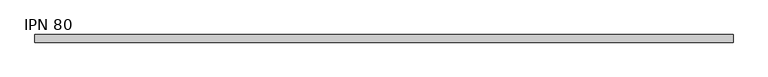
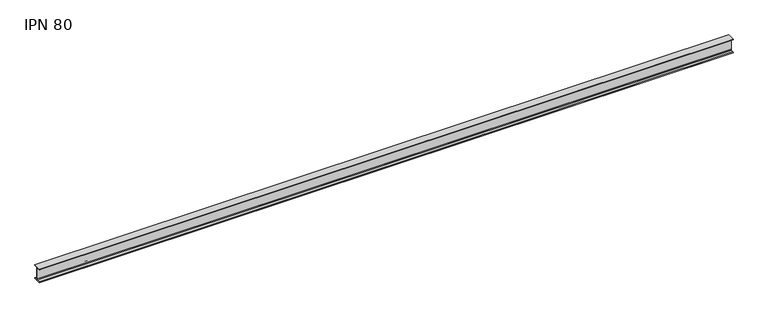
"""IFC4 building model written with IfcOpenShell, lengths in millimetres: beam geometry, IPN - Secciones en I con alas cónicas : IPN 80."""

from ifc_helpers import new_model, si_unit, point, frame, frame_2d, origin, place, context, project, spatial, polyline, circle_curve, trimmed, segment, composite_curve, outline, extrude, source, transform, mapped, element, save


def ipn_80_1b30f456(model_context):
    return source(origin(), model_context, "Body", "SweptSolid", [
        extrude(outline(composite_curve([segment(polyline([(-21.0, 40.0), (21.0, 40.0), (21.0, 37.5704306)]), True, "CONTINUOUS"), segment(trimmed(circle_curve(frame_2d((18.7, 37.5704306)), 2.3), [point((21.0, 37.5704306))], [point((19.01889, 35.2926446))], False, "CARTESIAN"), True, "CONTINUOUS"), segment(polyline([(19.01889, 35.2926446), (5.3092734, 33.3732983)]), True, "CONTINUOUS"), segment(trimmed(circle_curve(frame_2d((5.85, 29.5109655)), 3.9), [point((5.3092734, 33.3732983))], [point((1.95, 29.5109655))], True, "CARTESIAN"), True, "CONTINUOUS"), segment(polyline([(1.95, 29.5109655), (1.95, -29.5109655)]), True, "CONTINUOUS"), segment(trimmed(circle_curve(frame_2d((5.85, -29.5109655)), 3.9), [point((1.95, -29.5109655))], [point((5.3092734, -33.3732983))], True, "CARTESIAN"), True, "CONTINUOUS"), segment(polyline([(5.3092734, -33.3732983), (19.01889, -35.2926446)]), True, "CONTINUOUS"), segment(trimmed(circle_curve(frame_2d((18.7, -37.5704306)), 2.3), [point((19.01889, -35.2926446))], [point((21.0, -37.5704306))], False, "CARTESIAN"), True, "CONTINUOUS"), segment(polyline([(21.0, -37.5704306), (21.0, -40.0), (-21.0, -40.0), (-21.0, -37.5704306)]), True, "CONTINUOUS"), segment(trimmed(circle_curve(frame_2d((-18.7, -37.5704306)), 2.3), [point((-21.0, -37.5704306))], [point((-19.01889, -35.2926446))], False, "CARTESIAN"), True, "CONTINUOUS"), segment(polyline([(-19.01889, -35.2926446), (-5.3092734, -33.3732983)]), True, "CONTINUOUS"), segment(trimmed(circle_curve(frame_2d((-5.85, -29.5109655)), 3.9), [point((-5.3092734, -33.3732983))], [point((-1.95, -29.5109655))], True, "CARTESIAN"), True, "CONTINUOUS"), segment(polyline([(-1.95, -29.5109655), (-1.95, 29.5109655)]), True, "CONTINUOUS"), segment(trimmed(circle_curve(frame_2d((-5.85, 29.5109655)), 3.9), [point((-1.95, 29.5109655))], [point((-5.3092734, 33.3732983))], True, "CARTESIAN"), True, "CONTINUOUS"), segment(polyline([(-5.3092734, 33.3732983), (-19.01889, 35.2926446)]), True, "CONTINUOUS"), segment(trimmed(circle_curve(frame_2d((-18.7, 37.5704306)), 2.3), [point((-19.01889, 35.2926446))], [point((-21.0, 37.5704306))], False, "CARTESIAN"), True, "CONTINUOUS"), segment(polyline([(-21.0, 37.5704306), (-21.0, 40.0)]), True, "CONTINUOUS")], self_intersect=False)), frame((-1933.85, 0.0, 0.0), z_axis=(1.0, 0.0, 0.0), x_axis=(0.0, 1.0, 0.0)), (0.0, 0.0, 1.0), 3840.85),
    ])


if __name__ == "__main__":
    model = new_model("IFC4")
    model_context = context("Model", 3, world=origin())
    ifc_project = project(units=[si_unit("LENGTHUNIT", "METRE", prefix="MILLI")], contexts=[model_context])
    site = spatial("IfcSite", under=ifc_project)
    building = spatial("IfcBuilding", under=site)
    placement = place(None, origin())
    ipn_80_shape = ipn_80_1b30f456(model_context)
    element("IfcBeam", 1, ObjectType="IPN - Secciones en I con alas cónicas : IPN 80", at=placement, inside=building, context=model_context, shape_type="MappedRepresentation", body=[
        mapped(ipn_80_shape, transform((0.0, 0.0, 0.0), x_axis=(1.0, 0.0, 0.0), y_axis=(0.0, 1.0, 0.0), z_axis=(0.0, 0.0, 1.0))),
    ])
    save(model, "model.ifc")
